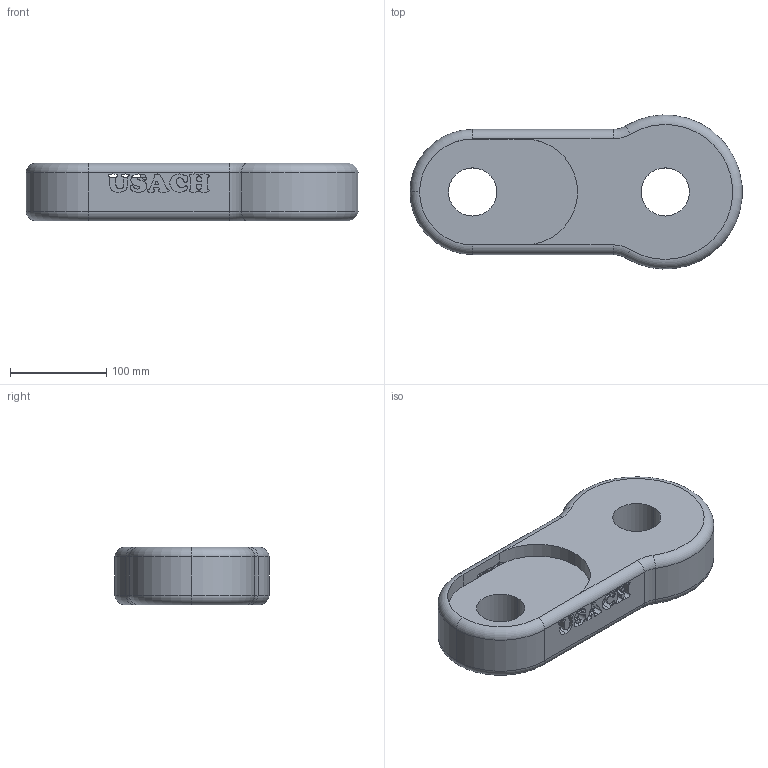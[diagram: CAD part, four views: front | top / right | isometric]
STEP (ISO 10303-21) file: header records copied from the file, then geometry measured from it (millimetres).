
FILE_DESCRIPTION (( 'STEP AP203' ), '1' );
FILE_NAME ('Eslabon1_Predeterminado_sldprt.STEP', '2024-09-30T13:48:30', ( '' ), ( '' ), 'SwSTEP 2.0', 'SolidWorks 2022', '' );
FILE_SCHEMA (( 'CONFIG_CONTROL_DESIGN' ));
Length unit declared in the file: millimetre
Products named in the file (1): Eslabon1_Predeterminado_sldprt
Bounding box: 344.71 x 159.91 x 59.5 mm (x, y, z)
Volume: 1896015.6 mm3; surface area: 159604.4 mm2
Topology: 1 solids, 1 shells, 373 faces, 1074 edges, 704 vertices
Faces by surface type: bspline 306, plane 36, cylinder 19, torus 12
Entity records: 22154 total; most frequent: CARTESIAN_POINT 14394, ORIENTED_EDGE 2148, EDGE_CURVE 1074, VERTEX_POINT 704, DIRECTION 639, B_SPLINE_CURVE_WITH_KNOTS 628, EDGE_LOOP 390, LINE 389
